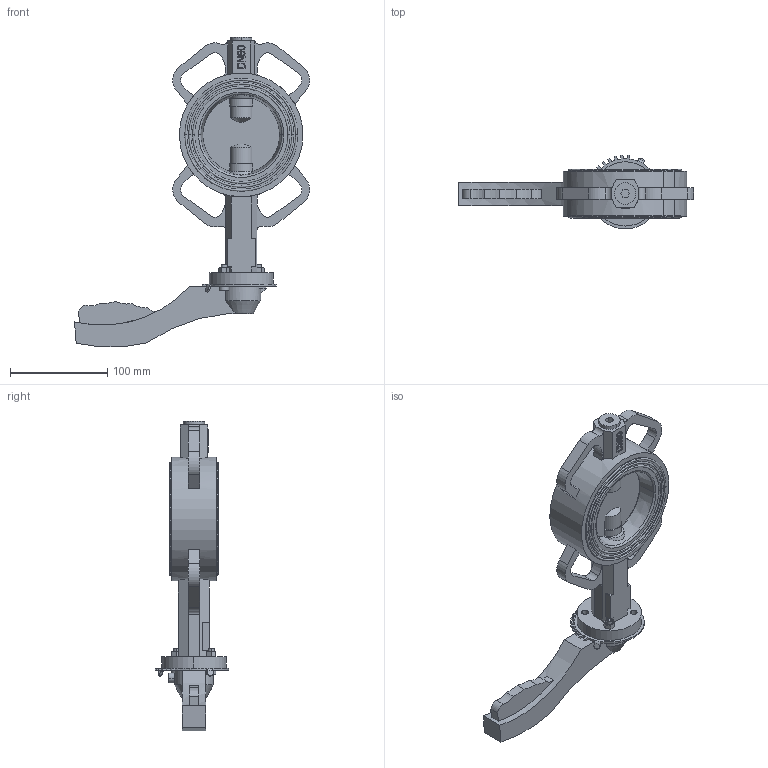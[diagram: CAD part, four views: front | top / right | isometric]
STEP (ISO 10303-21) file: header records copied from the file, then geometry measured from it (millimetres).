
FILE_DESCRIPTION((''),'2;1');
FILE_NAME('SB_RUCHKA_ASM','2023-12-23T',('DIMA'),(''),'PRO/ENGINEER BY PARAMETRIC TECHNOLOGY CORPORATION, 2008020','PRO/ENGINEER BY PARAMETRIC TECHNOLOGY CORPORATION, 2008020','');
FILE_SCHEMA(('CONFIG_CONTROL_DESIGN'));
Length unit declared in the file: millimetre
Products named in the file (19): KORPUS; REZ; DISK; SHTIR_1; ZAGLUSHKA; O-RING; SHTIR_2; SHAIBA_RAZREZ; SHAIBA; KOLCO_22_GOST13943; VTULKA; MANZET_REZ; SB_ASM; PLASTINA; RUCHKA; V-11738-M6X20; G-5915-M6; V-11738-M6X16; SB_RUCHKA_ASM
Assembly tree (26 placements, depth 3):
  SB_RUCHKA_ASM
    SB_ASM
      KORPUS
      REZ
      DISK
      SHTIR_1
      ZAGLUSHKA
      O-RING  x2
      SHTIR_2
      SHAIBA_RAZREZ
      SHAIBA  x2
      KOLCO_22_GOST13943
      VTULKA  x5
      MANZET_REZ
    PLASTINA
    RUCHKA
    V-11738-M6X20  x2
    G-5915-M6  x2
    V-11738-M6X16
Bounding box: 241.65 x 75.93 x 318.36 mm (x, y, z)
Volume: 738430.8 mm3; surface area: 219394.7 mm2
Topology: 25 solids, 32 shells, 741 faces, 1913 edges, 1258 vertices
Faces by surface type: plane 425, cylinder 229, cone 55, torus 28, bspline 4
Entity records: 21997 total; most frequent: CARTESIAN_POINT 4404, DIRECTION 3723, ORIENTED_EDGE 3496, EDGE_CURVE 1761, AXIS2_PLACEMENT_3D 1299, VERTEX_POINT 1160, VECTOR 1125, LINE 1125
